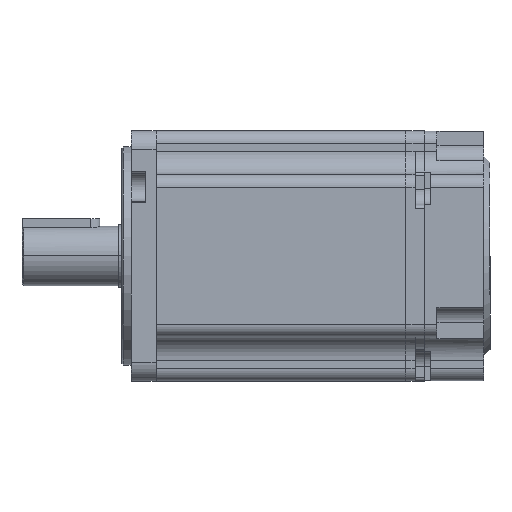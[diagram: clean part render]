
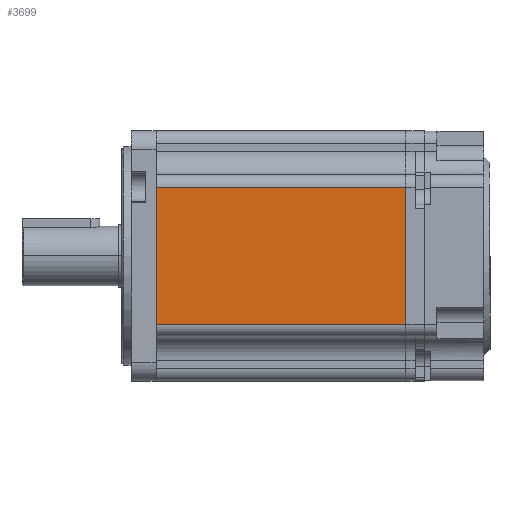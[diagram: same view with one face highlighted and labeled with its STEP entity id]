
A CAD part, top view. The second image highlights one B-rep face of the part: STEP entity #3699.
In plain terms, the highlighted planar face has unit normal (0, 0, 1).
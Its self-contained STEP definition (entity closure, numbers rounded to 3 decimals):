
#86 = ORIENTED_EDGE ( 'NONE', *, *, #23272, .F. ) ;
#598 = VERTEX_POINT ( 'NONE', #3971 ) ;
#650 = DIRECTION ( 'NONE',  ( 1., 0., 0. ) ) ;
#706 = DIRECTION ( 'NONE',  ( 0., 0., -1. ) ) ;
#3096 = LINE ( 'NONE', #9749, #16108 ) ;
#3243 = EDGE_CURVE ( 'NONE', #27535, #598, #3096, .T. ) ;
#3699 = ADVANCED_FACE ( 'NONE', ( #4808 ), #24682, .F. ) ;
#3971 = CARTESIAN_POINT ( 'NONE',  ( 56.804, 20.32, 159.8 ) ) ;
#4808 = FACE_OUTER_BOUND ( 'NONE', #17117, .T. ) ;
#5749 = LINE ( 'NONE', #19309, #23852 ) ;
#6576 = ORIENTED_EDGE ( 'NONE', *, *, #3243, .F. ) ;
#6959 = CARTESIAN_POINT ( 'NONE',  ( 56.804, -23.68, 159.8 ) ) ;
#7673 = CARTESIAN_POINT ( 'NONE',  ( -23.196, -23.68, 159.8 ) ) ;
#8360 = VECTOR ( 'NONE', #21954, 1000. ) ;
#8865 = CARTESIAN_POINT ( 'NONE',  ( 56.804, -23.68, 159.8 ) ) ;
#9749 = CARTESIAN_POINT ( 'NONE',  ( 56.804, 20.32, 159.8 ) ) ;
#11903 = VERTEX_POINT ( 'NONE', #8865 ) ;
#11919 = VECTOR ( 'NONE', #27289, 1000. ) ;
#13009 = CARTESIAN_POINT ( 'NONE',  ( 56.804, -23.68, 159.8 ) ) ;
#13555 = DIRECTION ( 'NONE',  ( 0., 1., 0. ) ) ;
#16108 = VECTOR ( 'NONE', #650, 1000. ) ;
#17117 = EDGE_LOOP ( 'NONE', ( #27345, #22318, #6576, #86 ) ) ;
#18763 = LINE ( 'NONE', #27363, #11919 ) ;
#19309 = CARTESIAN_POINT ( 'NONE',  ( 56.804, -23.68, 159.8 ) ) ;
#19941 = LINE ( 'NONE', #13009, #8360 ) ;
#20186 = EDGE_CURVE ( 'NONE', #598, #11903, #5749, .T. ) ;
#21020 = CARTESIAN_POINT ( 'NONE',  ( -23.196, 20.32, 159.8 ) ) ;
#21954 = DIRECTION ( 'NONE',  ( -1., 0., 0. ) ) ;
#22318 = ORIENTED_EDGE ( 'NONE', *, *, #20186, .F. ) ;
#23272 = EDGE_CURVE ( 'NONE', #26482, #27535, #18763, .T. ) ;
#23852 = VECTOR ( 'NONE', #27992, 1000. ) ;
#24682 = PLANE ( 'NONE',  #26599 ) ;
#26482 = VERTEX_POINT ( 'NONE', #7673 ) ;
#26599 = AXIS2_PLACEMENT_3D ( 'NONE', #6959, #706, #13555 ) ;
#27289 = DIRECTION ( 'NONE',  ( 0., 1., 0. ) ) ;
#27345 = ORIENTED_EDGE ( 'NONE', *, *, #27694, .F. ) ;
#27363 = CARTESIAN_POINT ( 'NONE',  ( -23.196, -1.68, 159.8 ) ) ;
#27535 = VERTEX_POINT ( 'NONE', #21020 ) ;
#27694 = EDGE_CURVE ( 'NONE', #11903, #26482, #19941, .T. ) ;
#27992 = DIRECTION ( 'NONE',  ( 0., -1., 0. ) ) ;
